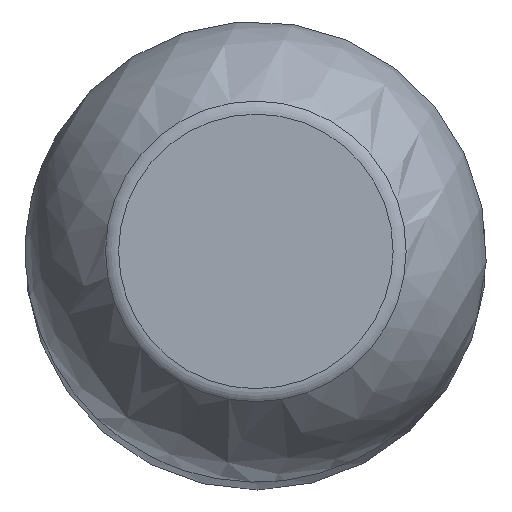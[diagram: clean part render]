
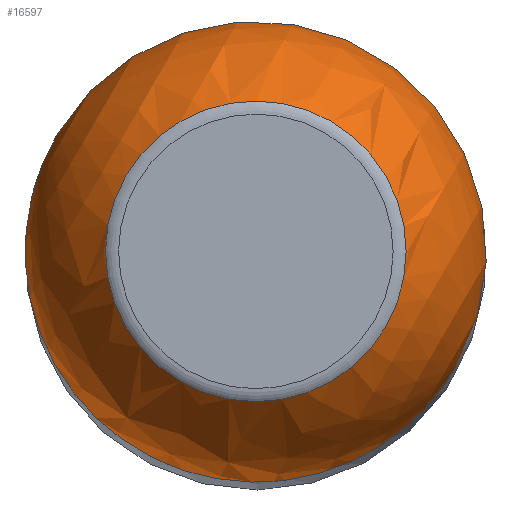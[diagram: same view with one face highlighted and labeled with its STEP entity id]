
A CAD part, top view. The second image highlights one B-rep face of the part: STEP entity #16597.
In plain terms, the highlighted spherical face has radius 18.326 mm.
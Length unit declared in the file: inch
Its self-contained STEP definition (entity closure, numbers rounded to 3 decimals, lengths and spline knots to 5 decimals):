
#41=SPHERICAL_SURFACE('',#17572,0.7215);
#192=FACE_BOUND('',#2906,.T.);
#193=FACE_BOUND('',#2907,.T.);
#2906=EDGE_LOOP('',(#15182));
#2907=EDGE_LOOP('',(#15183));
#4244=CIRCLE('',#17571,0.47012);
#4245=CIRCLE('',#17573,0.40377);
#8149=VERTEX_POINT('',#38196);
#8150=VERTEX_POINT('',#38199);
#10522=EDGE_CURVE('',#8149,#8149,#4244,.T.);
#10523=EDGE_CURVE('',#8150,#8150,#4245,.T.);
#15182=ORIENTED_EDGE('',*,*,#10522,.T.);
#15183=ORIENTED_EDGE('',*,*,#10523,.F.);
#16597=ADVANCED_FACE('',(#192,#193),#41,.T.);
#17571=AXIS2_PLACEMENT_3D('',#38197,#20445,#20446);
#17572=AXIS2_PLACEMENT_3D('',#38198,#20447,#20448);
#17573=AXIS2_PLACEMENT_3D('',#38200,#20449,#20450);
#20445=DIRECTION('center_axis',(1.,0.,0.));
#20446=DIRECTION('ref_axis',(0.,0.,-1.));
#20447=DIRECTION('center_axis',(0.,0.,1.));
#20448=DIRECTION('ref_axis',(1.,0.,0.));
#20449=DIRECTION('center_axis',(1.,0.,0.));
#20450=DIRECTION('ref_axis',(0.,0.,-1.));
#38196=CARTESIAN_POINT('',(0.01509,0.47012,0.));
#38197=CARTESIAN_POINT('Origin',(0.01509,0.,0.));
#38198=CARTESIAN_POINT('Origin',(0.5624,0.,0.));
#38199=CARTESIAN_POINT('',(1.16034,0.40377,0.));
#38200=CARTESIAN_POINT('Origin',(1.16034,0.,0.));
